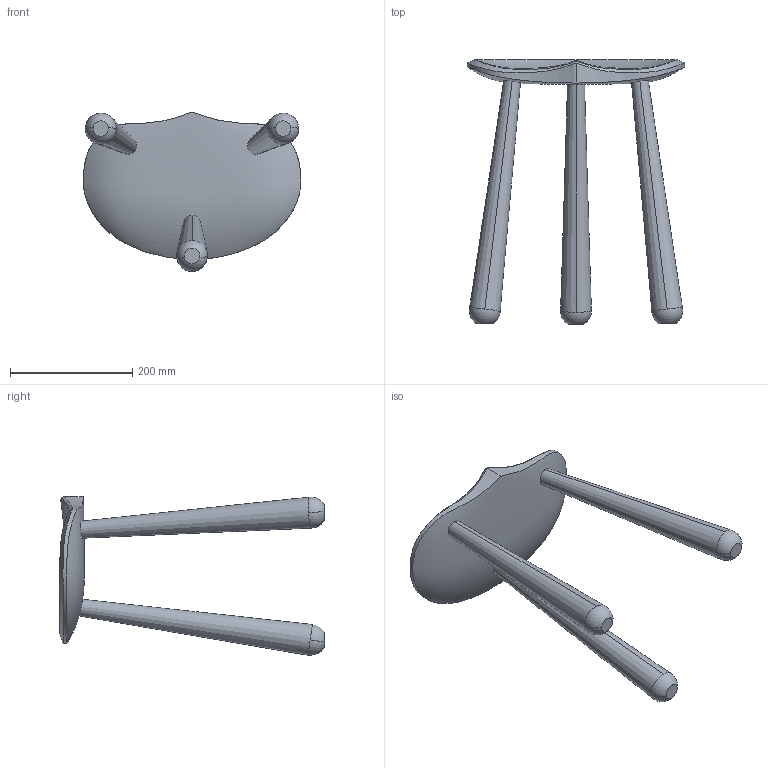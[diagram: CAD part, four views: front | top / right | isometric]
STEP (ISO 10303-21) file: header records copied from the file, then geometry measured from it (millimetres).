
FILE_DESCRIPTION (( 'STEP AP214' ), '1' );
FILE_NAME ('Low Stool_KZ_STP.STEP', '2021-04-13T18:29:28', ( '' ), ( '' ), 'SwSTEP 2.0', 'SolidWorks 2021', '' );
FILE_SCHEMA (( 'AUTOMOTIVE_DESIGN' ));
Length unit declared in the file: millimetre
Products named in the file (1): Low Stool_KZ_STP
Bounding box: 355.59 x 431.83 x 259.72 mm (x, y, z)
Volume: 2898752.7 mm3; surface area: 303059.2 mm2
Topology: 1 solids, 1 shells, 62 faces, 163 edges, 104 vertices
Faces by surface type: plane 24, bspline 17, cylinder 9, sphere 6, cone 6
Entity records: 9454 total; most frequent: CARTESIAN_POINT 7608, ORIENTED_EDGE 292, DIRECTION 215, EDGE_CURVE 146, VERTEX_POINT 95, AXIS2_PLACEMENT_3D 79, EDGE_LOOP 71, ADVANCED_FACE 62
